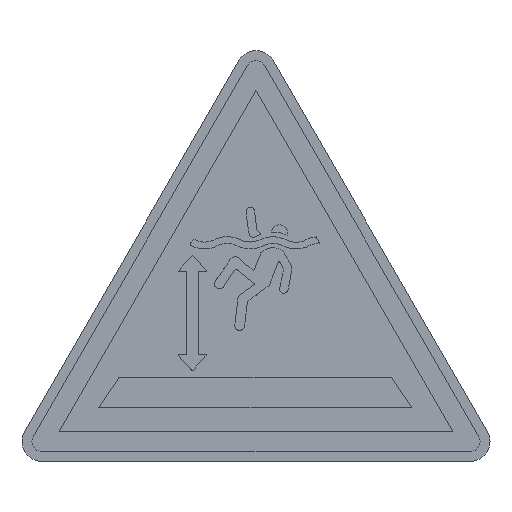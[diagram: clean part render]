
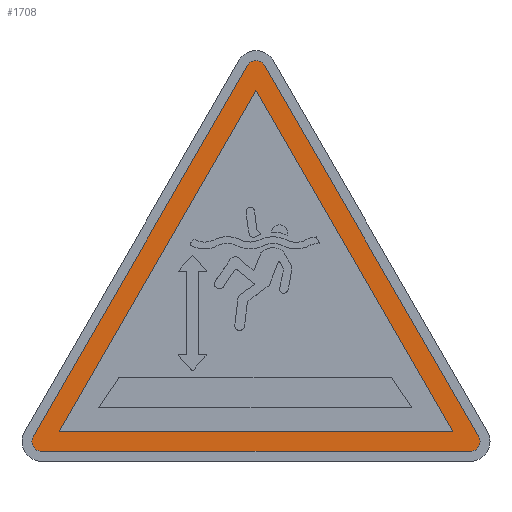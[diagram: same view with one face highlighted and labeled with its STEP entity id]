
A CAD part, top view. The second image highlights one B-rep face of the part: STEP entity #1708.
In plain terms, the highlighted planar face has unit normal (0, 0, 1).
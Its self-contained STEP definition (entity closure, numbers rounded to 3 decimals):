
#54 = CARTESIAN_POINT ( 'NONE',  ( -19.804, 3., 0.22 ) ) ;
#72 = VERTEX_POINT ( 'NONE', #2184 ) ;
#240 = CARTESIAN_POINT ( 'NONE',  ( 0.866, 39.801, 0.22 ) ) ;
#248 = EDGE_LOOP ( 'NONE', ( #3726, #3780, #5829, #1996, #3734, #1943 ) ) ;
#253 = CARTESIAN_POINT ( 'NONE',  ( 21.536, 2., 0.22 ) ) ;
#272 = CIRCLE ( 'NONE', #6590, 1. ) ;
#333 = DIRECTION ( 'NONE',  ( 1., 0., 0. ) ) ;
#369 = CARTESIAN_POINT ( 'NONE',  ( 22.402, 2.5, 0.22 ) ) ;
#477 = EDGE_CURVE ( 'NONE', #2680, #1109, #3790, .T. ) ;
#487 = CARTESIAN_POINT ( 'NONE',  ( -19.804, 3., 0.22 ) ) ;
#580 = CARTESIAN_POINT ( 'NONE',  ( 0., 37.301, 0.22 ) ) ;
#595 = EDGE_LOOP ( 'NONE', ( #919, #7918, #5871 ) ) ;
#746 = CARTESIAN_POINT ( 'NONE',  ( 19.804, 3., 0.22 ) ) ;
#919 = ORIENTED_EDGE ( 'NONE', *, *, #3521, .F. ) ;
#941 = DIRECTION ( 'NONE',  ( 0., 0., 1. ) ) ;
#1043 = EDGE_CURVE ( 'NONE', #1795, #2680, #272, .T. ) ;
#1109 = VERTEX_POINT ( 'NONE', #5660 ) ;
#1154 = CARTESIAN_POINT ( 'NONE',  ( 0., 39.301, 0.22 ) ) ;
#1259 = DIRECTION ( 'NONE',  ( 0., 0., 1. ) ) ;
#1392 = EDGE_CURVE ( 'NONE', #1505, #72, #8104, .T. ) ;
#1505 = VERTEX_POINT ( 'NONE', #746 ) ;
#1539 = EDGE_CURVE ( 'NONE', #4205, #2985, #5978, .T. ) ;
#1708 = ADVANCED_FACE ( 'NONE', ( #6170, #5440 ), #4820, .T. ) ;
#1795 = VERTEX_POINT ( 'NONE', #240 ) ;
#1943 = ORIENTED_EDGE ( 'NONE', *, *, #3205, .T. ) ;
#1996 = ORIENTED_EDGE ( 'NONE', *, *, #2207, .T. ) ;
#2184 = CARTESIAN_POINT ( 'NONE',  ( 0., 37.301, 0.22 ) ) ;
#2207 = EDGE_CURVE ( 'NONE', #2621, #4205, #4618, .T. ) ;
#2583 = DIRECTION ( 'NONE',  ( 1., 0., 0. ) ) ;
#2621 = VERTEX_POINT ( 'NONE', #2787 ) ;
#2680 = VERTEX_POINT ( 'NONE', #4631 ) ;
#2729 = DIRECTION ( 'NONE',  ( 0., 0., 1. ) ) ;
#2787 = CARTESIAN_POINT ( 'NONE',  ( -21.536, 1., 0.22 ) ) ;
#2891 = AXIS2_PLACEMENT_3D ( 'NONE', #6191, #1259, #6315 ) ;
#2985 = VERTEX_POINT ( 'NONE', #369 ) ;
#3159 = VECTOR ( 'NONE', #2583, 1000. ) ;
#3184 = VECTOR ( 'NONE', #333, 1000. ) ;
#3205 = EDGE_CURVE ( 'NONE', #2985, #1795, #6520, .T. ) ;
#3276 = DIRECTION ( 'NONE',  ( -0.5, -0.866, 0. ) ) ;
#3521 = EDGE_CURVE ( 'NONE', #6466, #1505, #5697, .T. ) ;
#3584 = DIRECTION ( 'NONE',  ( 1., 0., 0. ) ) ;
#3726 = ORIENTED_EDGE ( 'NONE', *, *, #1043, .T. ) ;
#3734 = ORIENTED_EDGE ( 'NONE', *, *, #1539, .T. ) ;
#3780 = ORIENTED_EDGE ( 'NONE', *, *, #477, .T. ) ;
#3790 = LINE ( 'NONE', #5694, #4126 ) ;
#4044 = CARTESIAN_POINT ( 'NONE',  ( 22.402, 2.5, 0.22 ) ) ;
#4126 = VECTOR ( 'NONE', #3276, 1000. ) ;
#4205 = VERTEX_POINT ( 'NONE', #4962 ) ;
#4242 = DIRECTION ( 'NONE',  ( -0.5, 0.866, 0. ) ) ;
#4270 = VECTOR ( 'NONE', #4242, 1000. ) ;
#4618 = LINE ( 'NONE', #7109, #3184 ) ;
#4631 = CARTESIAN_POINT ( 'NONE',  ( -0.866, 39.801, 0.22 ) ) ;
#4725 = VECTOR ( 'NONE', #6057, 1000. ) ;
#4820 = PLANE ( 'NONE',  #6926 ) ;
#4962 = CARTESIAN_POINT ( 'NONE',  ( 21.536, 1., 0.22 ) ) ;
#5299 = CARTESIAN_POINT ( 'NONE',  ( 0., 39.301, 0.22 ) ) ;
#5424 = DIRECTION ( 'NONE',  ( 1., 0., 0. ) ) ;
#5440 = FACE_BOUND ( 'NONE', #595, .T. ) ;
#5475 = DIRECTION ( 'NONE',  ( 0., 0., 1. ) ) ;
#5567 = LINE ( 'NONE', #580, #7075 ) ;
#5660 = CARTESIAN_POINT ( 'NONE',  ( -22.402, 2.5, 0.22 ) ) ;
#5694 = CARTESIAN_POINT ( 'NONE',  ( -0.866, 39.801, 0.22 ) ) ;
#5697 = LINE ( 'NONE', #54, #3159 ) ;
#5829 = ORIENTED_EDGE ( 'NONE', *, *, #6580, .T. ) ;
#5871 = ORIENTED_EDGE ( 'NONE', *, *, #1392, .F. ) ;
#5978 = CIRCLE ( 'NONE', #7418, 1. ) ;
#6057 = DIRECTION ( 'NONE',  ( -0.5, 0.866, 0. ) ) ;
#6170 = FACE_OUTER_BOUND ( 'NONE', #248, .T. ) ;
#6183 = DIRECTION ( 'NONE',  ( -0.5, -0.866, 0. ) ) ;
#6191 = CARTESIAN_POINT ( 'NONE',  ( -21.536, 2., 0.22 ) ) ;
#6315 = DIRECTION ( 'NONE',  ( 1., 0., 0. ) ) ;
#6466 = VERTEX_POINT ( 'NONE', #487 ) ;
#6520 = LINE ( 'NONE', #4044, #4725 ) ;
#6580 = EDGE_CURVE ( 'NONE', #1109, #2621, #7204, .T. ) ;
#6590 = AXIS2_PLACEMENT_3D ( 'NONE', #5299, #941, #5424 ) ;
#6597 = DIRECTION ( 'NONE',  ( 1., 0., 0. ) ) ;
#6816 = EDGE_CURVE ( 'NONE', #72, #6466, #5567, .T. ) ;
#6836 = CARTESIAN_POINT ( 'NONE',  ( 19.804, 3., 0.22 ) ) ;
#6926 = AXIS2_PLACEMENT_3D ( 'NONE', #1154, #5475, #3584 ) ;
#7075 = VECTOR ( 'NONE', #6183, 1000. ) ;
#7109 = CARTESIAN_POINT ( 'NONE',  ( -21.536, 1., 0.22 ) ) ;
#7204 = CIRCLE ( 'NONE', #2891, 1. ) ;
#7418 = AXIS2_PLACEMENT_3D ( 'NONE', #253, #2729, #6597 ) ;
#7918 = ORIENTED_EDGE ( 'NONE', *, *, #6816, .F. ) ;
#8104 = LINE ( 'NONE', #6836, #4270 ) ;
